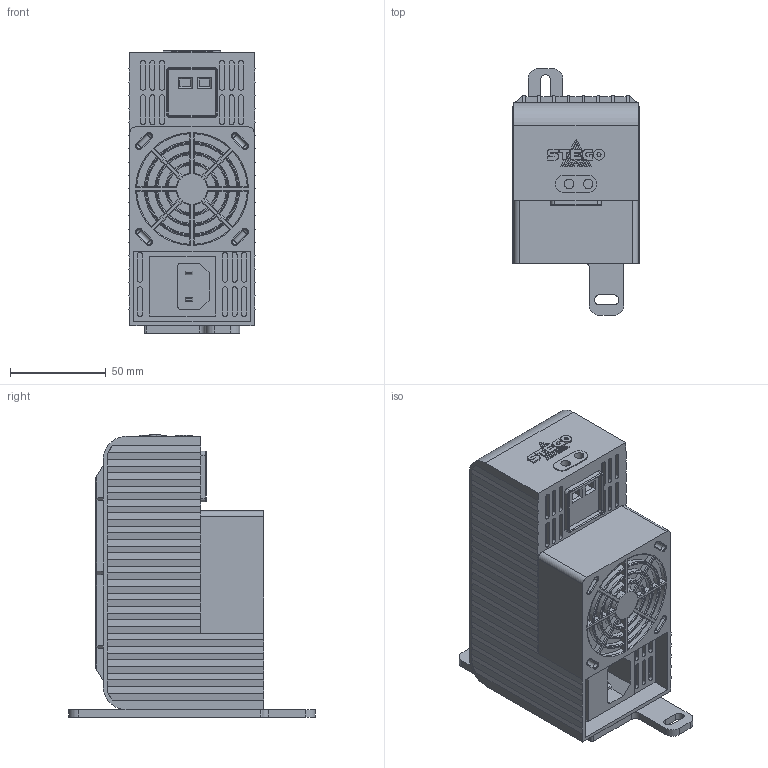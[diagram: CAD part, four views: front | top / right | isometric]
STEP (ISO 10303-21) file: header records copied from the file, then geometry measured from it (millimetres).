
FILE_DESCRIPTION (( 'STEP AP214' ), '1' );
FILE_NAME ('CS03209.0-07_eplan_08_2013.STEP', '2013-08-27T09:06:27', ( 'Nutzer' ), ( '' ), 'SwSTEP 2.0', 'SolidWorks 2013', '' );
FILE_SCHEMA (( 'AUTOMOTIVE_DESIGN' ));
Length unit declared in the file: millimetre
Products named in the file (1): CS03209.0-07_eplan_08_2013
Bounding box: 66 x 129 x 147.85 mm (x, y, z)
Volume: 677416.1 mm3; surface area: 77613.5 mm2
Topology: 1 solids, 1 shells, 1267 faces, 3263 edges, 2060 vertices
Faces by surface type: plane 892, cylinder 262, torus 84, bspline 21, sphere 8
Entity records: 38440 total; most frequent: CARTESIAN_POINT 7819, ORIENTED_EDGE 6494, DIRECTION 6048, EDGE_CURVE 3247, LINE 2542, VECTOR 2542, VERTEX_POINT 2052, AXIS2_PLACEMENT_3D 1753
